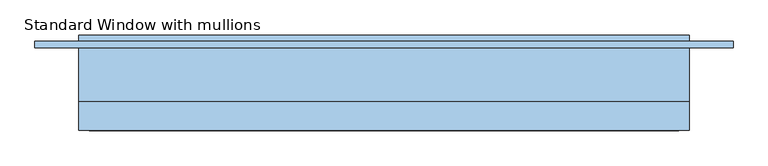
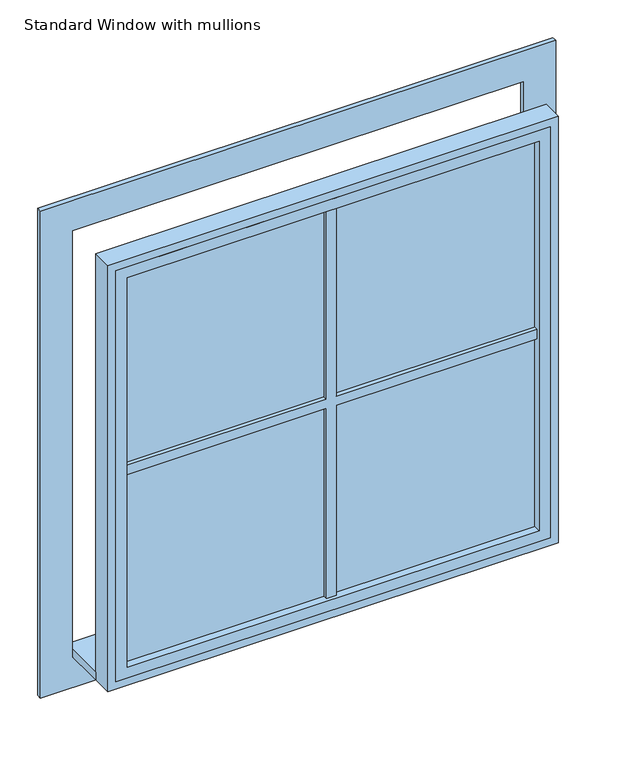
"""IFC4 building model written with IfcOpenShell, lengths in millimetres: window geometry, Standard Window with mullions : 1400/1400."""

from ifc_helpers import new_model, si_unit, frame, origin, place, context, project, spatial, polyline, outline, extrude, source, transform, mapped, element, save


def standard_window_with_mullions_d3525f46(model_context):
    return source(origin(), model_context, "Body", "SweptSolid", [
        extrude(outline(polyline([(700.0, 26.9623738), (-700.0, 26.9623738), (-700.0, 180.0), (700.0, 180.0), (700.0, 26.9623738)])), frame((0.0, 0.0, 1000.0), z_axis=(0.0, 0.0, 1.0), x_axis=(1.0, 0.0, 0.0)), (0.0, 0.0, 1.0), 25.0),
        extrude(outline(polyline([(2500.0, -800.0), (900.0, -800.0), (900.0, 800.0), (2500.0, 800.0), (2500.0, -800.0)]), holes=[polyline([(2400.0, -700.0), (2400.0, 700.0), (1000.0, 700.0), (1000.0, -700.0), (2400.0, -700.0)])]), frame((0.0, 150.0, 0.0), z_axis=(0.0, 1.0, 0.0), x_axis=(0.0, 0.0, 1.0)), (0.0, 0.0, 1.0), 15.0),
        extrude(outline(polyline([(2375.0, -675.0), (1025.0, -675.0), (1025.0, 675.0), (2375.0, 675.0), (2375.0, -675.0)]), holes=[polyline([(2340.0, -640.0), (2340.0, 640.0), (1060.0, 640.0), (1060.0, -640.0), (2340.0, -640.0)])]), frame((0.0, -39.0188131, 0.0), z_axis=(0.0, 1.0, 0.0), x_axis=(0.0, 0.0, 1.0)), (0.0, 0.0, 1.0), 50.5),
        extrude(outline(polyline([(1000.0, -700.0), (1000.0, 700.0), (2400.0, 700.0), (2400.0, -700.0), (1000.0, -700.0)]), holes=[polyline([(1025.0, -675.0), (2375.0, -675.0), (2375.0, 675.0), (1025.0, 675.0), (1025.0, -675.0)])]), frame((0.0, -39.0188131, 0.0), z_axis=(0.0, 1.0, 0.0), x_axis=(0.0, 0.0, 1.0)), (0.0, 0.0, 1.0), 65.9811869),
        extrude(outline(polyline([(1715.0, 640.0), (1715.0, 15.0), (2340.0, 15.0), (2340.0, -15.0), (1715.0, -15.0), (1715.0, -640.0), (1685.0, -640.0), (1685.0, -15.0), (1060.0, -15.0), (1060.0, 15.0), (1685.0, 15.0), (1685.0, 640.0), (1715.0, 640.0)])), frame((0.0, -28.5188131, 0.0), z_axis=(0.0, 1.0, 0.0), x_axis=(0.0, 0.0, 1.0)), (0.0, 0.0, 1.0), 20.0),
        extrude(outline(polyline([(640.0, -15.5188131), (-640.0, -15.5188131), (-640.0, -13.5188131), (640.0, -13.5188131), (640.0, -15.5188131)])), frame((0.0, 0.0, 1060.0), z_axis=(0.0, 0.0, 1.0), x_axis=(1.0, 0.0, 0.0)), (0.0, 0.0, 1.0), 1280.0),
    ])


if __name__ == "__main__":
    model = new_model("IFC4")
    model_context = context("Model", 3, world=origin())
    ifc_project = project(units=[si_unit("LENGTHUNIT", "METRE", prefix="MILLI")], contexts=[model_context])
    site = spatial("IfcSite", under=ifc_project)
    building = spatial("IfcBuilding", under=site)
    placement = place(None, origin())
    standard_window_with_mullions_shape = standard_window_with_mullions_d3525f46(model_context)
    element("IfcWindow", 1, ObjectType="Standard Window with mullions : 1400/1400", at=placement, inside=building, context=model_context, shape_type="MappedRepresentation", body=[
        mapped(standard_window_with_mullions_shape, transform((0.0, 0.0, 0.0), x_axis=(1.0, 0.0, 0.0), y_axis=(0.0, 1.0, 0.0), z_axis=(0.0, 0.0, 1.0))),
    ])
    save(model, "model.ifc")
